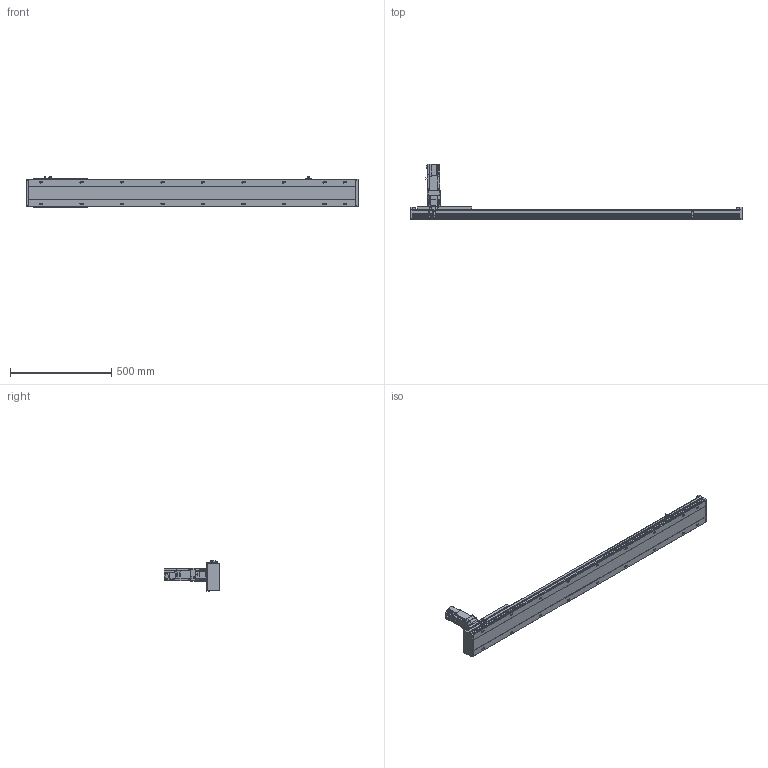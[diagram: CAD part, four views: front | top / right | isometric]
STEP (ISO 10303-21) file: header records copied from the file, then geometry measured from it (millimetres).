
FILE_DESCRIPTION(/* description */ ('STEP AP203'),/* implementation_level */ '2;1');
FILE_NAME(/* name */ 'SHS14A-L10-S1300-BC-T40-C1-N(0)',/* time_stamp */ '2023-03-27T08:48:50+02:00',/* author */ ('License CC BY-ND 4.0'),/* organization */ ('CADENAS'),/* preprocessor_version */ 'ST-DEVELOPER v19.3',/* originating_system */ 'PARTsolutions',/* authorisation */ ' ');
FILE_SCHEMA (('CONFIG_CONTROL_DESIGN'));
Length unit declared in the file: millimetre
Products named in the file (7): SHS14A-L10-S1300-BC-T40-C1-N(0); PSC140-sensor; T40-p1; SHS14AT_body3; SHS14A-1300_slider; SHS14A_body2; SHS14A-S1300-BC-T40-C1(0)_body
Assembly tree (13 placements, depth 2):
  SHS14A-L10-S1300-BC-T40-C1-N(0)
    PSC140-sensor  x3
    T40-p1
    SHS14AT_body3
    SHS14A-1300_slider
    SHS14A_body2  x6
    SHS14A-S1300-BC-T40-C1(0)_body
Bounding box: 1640 x 272.7 x 150.9 mm (x, y, z)
Volume: 7419630.2 mm3; surface area: 1177785.2 mm2
Topology: 13 solids, 13 shells, 2044 faces, 5223 edges, 3416 vertices
Faces by surface type: plane 1449, cylinder 515, cone 70, torus 10
Full cylindrical faces by diameter (mm): 2.8 x3, 4.134 x24, 4.2 x7, 4.4 x24, 4.5 x24, 4.6 x3, 4.8 x24, 4.917 x26, 5 x8, 5.5 x11, 5.94 x6, 6 x2, 6.6 x18, 8 x24, 8.49 x4, 8.5 x4, 9 x4, 10.5 x18, 13.964 x1, 14 x1, 14.182 x1, 16 x1, 18.974 x1, 19.274 x1, 19.774 x1, 19.8 x1, 34.442 x1, 42 x1, 50 x5
Entity records: 32028 total; most frequent: CARTESIAN_POINT 5652, DIRECTION 5417, ORIENTED_EDGE 5022, EDGE_CURVE 2511, AXIS2_PLACEMENT_3D 1857, VERTEX_POINT 1780, LINE 1703, VECTOR 1703
